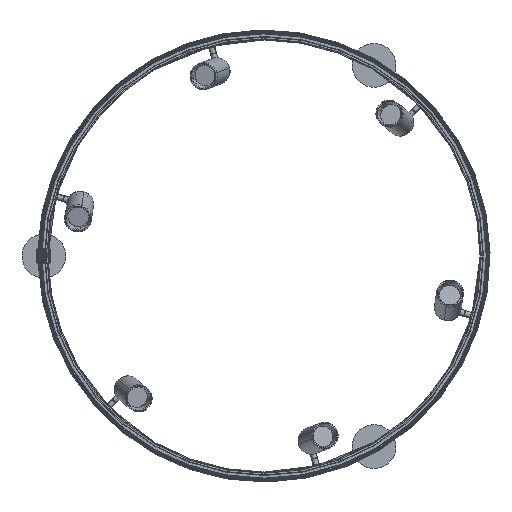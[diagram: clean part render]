
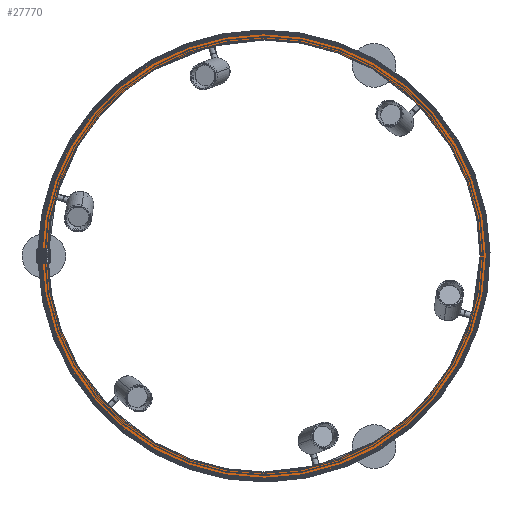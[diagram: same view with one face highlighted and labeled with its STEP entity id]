
A CAD part, left-side view. The second image highlights one B-rep face of the part: STEP entity #27770.
In plain terms, the highlighted planar face has unit normal (-1, 0, 0).
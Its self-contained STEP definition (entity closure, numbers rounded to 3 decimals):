
#12204 = EDGE_LOOP ( 'NONE', ( #20032, #30007 ) ) ;
#20032 = ORIENTED_EDGE ( 'NONE', *, *, #60745, .T. ) ;
#20081 = AXIS2_PLACEMENT_3D ( 'NONE', #139585, #31570, #41418 ) ;
#27770 = ADVANCED_FACE ( 'NONE', ( #73922, #138856 ), #32953, .T. ) ;
#30007 = ORIENTED_EDGE ( 'NONE', *, *, #71396, .T. ) ;
#31570 = DIRECTION ( 'NONE',  ( -1., 0., 0. ) ) ;
#31754 = VERTEX_POINT ( 'NONE', #136408 ) ;
#32953 = PLANE ( 'NONE',  #20081 ) ;
#32970 = CARTESIAN_POINT ( 'NONE',  ( -15., -443.7, 0. ) ) ;
#39855 = CARTESIAN_POINT ( 'NONE',  ( -15., -443.7, 0. ) ) ;
#41418 = DIRECTION ( 'NONE',  ( 0., 0., 1. ) ) ;
#48562 = VERTEX_POINT ( 'NONE', #68381 ) ;
#59618 = DIRECTION ( 'NONE',  ( 0., 0., -1. ) ) ;
#60409 = VERTEX_POINT ( 'NONE', #102930 ) ;
#60745 = EDGE_CURVE ( 'NONE', #60409, #31754, #73740, .T. ) ;
#62411 = CIRCLE ( 'NONE', #112030, 463.295 ) ;
#64699 = AXIS2_PLACEMENT_3D ( 'NONE', #81951, #69264, #91826 ) ;
#68381 = CARTESIAN_POINT ( 'NONE',  ( -15., -443.7, -463.295 ) ) ;
#69264 = DIRECTION ( 'NONE',  ( 1., 0., 0. ) ) ;
#71396 = EDGE_CURVE ( 'NONE', #31754, #60409, #91364, .T. ) ;
#71662 = DIRECTION ( 'NONE',  ( 1., 0., 0. ) ) ;
#73740 = CIRCLE ( 'NONE', #64699, 444. ) ;
#73922 = FACE_BOUND ( 'NONE', #12204, .T. ) ;
#78132 = DIRECTION ( 'NONE',  ( 1., 0., 0. ) ) ;
#80120 = CARTESIAN_POINT ( 'NONE',  ( -15., -443.7, 0. ) ) ;
#81951 = CARTESIAN_POINT ( 'NONE',  ( -15., -443.7, 0. ) ) ;
#88087 = CARTESIAN_POINT ( 'NONE',  ( -15., -443.7, 463.295 ) ) ;
#88665 = DIRECTION ( 'NONE',  ( 1., 0., 0. ) ) ;
#91364 = CIRCLE ( 'NONE', #109488, 444. ) ;
#91437 = AXIS2_PLACEMENT_3D ( 'NONE', #32970, #78132, #121224 ) ;
#91826 = DIRECTION ( 'NONE',  ( 0., 0., -1. ) ) ;
#96318 = EDGE_CURVE ( 'NONE', #109978, #48562, #120842, .T. ) ;
#97224 = EDGE_CURVE ( 'NONE', #48562, #109978, #62411, .T. ) ;
#102930 = CARTESIAN_POINT ( 'NONE',  ( -15., -443.7, -444. ) ) ;
#108608 = ORIENTED_EDGE ( 'NONE', *, *, #97224, .F. ) ;
#109488 = AXIS2_PLACEMENT_3D ( 'NONE', #39855, #71662, #135951 ) ;
#109978 = VERTEX_POINT ( 'NONE', #88087 ) ;
#111691 = EDGE_LOOP ( 'NONE', ( #108608, #137443 ) ) ;
#112030 = AXIS2_PLACEMENT_3D ( 'NONE', #80120, #88665, #59618 ) ;
#120842 = CIRCLE ( 'NONE', #91437, 463.295 ) ;
#121224 = DIRECTION ( 'NONE',  ( 0., 0., -1. ) ) ;
#135951 = DIRECTION ( 'NONE',  ( 0., 0., -1. ) ) ;
#136408 = CARTESIAN_POINT ( 'NONE',  ( -15., -443.7, 444. ) ) ;
#137443 = ORIENTED_EDGE ( 'NONE', *, *, #96318, .F. ) ;
#138856 = FACE_OUTER_BOUND ( 'NONE', #111691, .T. ) ;
#139585 = CARTESIAN_POINT ( 'NONE',  ( -15., 19.595, 0. ) ) ;
